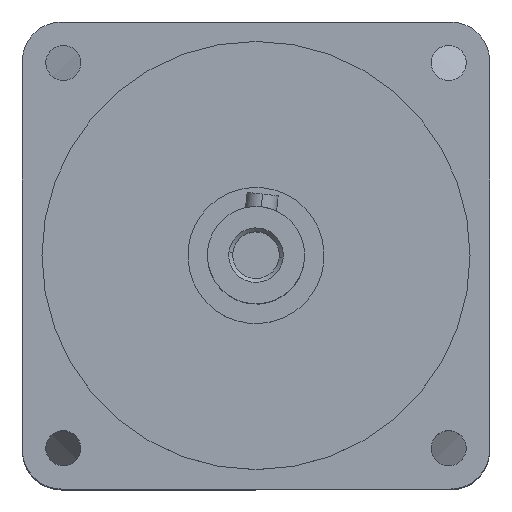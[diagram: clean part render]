
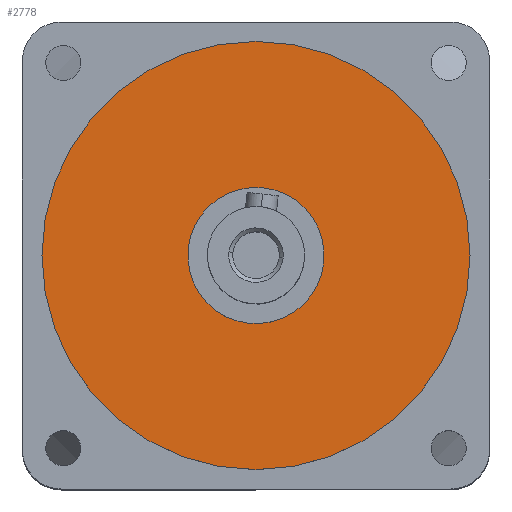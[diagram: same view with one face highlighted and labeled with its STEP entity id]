
A CAD part, top view. The second image highlights one B-rep face of the part: STEP entity #2778.
In plain terms, the highlighted planar face has unit normal (0, 0, 1).
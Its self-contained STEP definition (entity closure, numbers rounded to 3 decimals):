
#89 = ORIENTED_EDGE ( 'NONE', *, *, #687, .F. ) ;
#186 = CARTESIAN_POINT ( 'NONE',  ( -14.874, -22.151, 308.371 ) ) ;
#365 = VERTEX_POINT ( 'NONE', #1966 ) ;
#377 = DIRECTION ( 'NONE',  ( 0., 0., -1. ) ) ;
#382 = DIRECTION ( 'NONE',  ( 0., 0., -1. ) ) ;
#486 = ORIENTED_EDGE ( 'NONE', *, *, #1833, .F. ) ;
#687 = EDGE_CURVE ( 'NONE', #365, #868, #784, .T. ) ;
#752 = FACE_OUTER_BOUND ( 'NONE', #1371, .T. ) ;
#784 = CIRCLE ( 'NONE', #1746, 55. ) ;
#868 = VERTEX_POINT ( 'NONE', #186 ) ;
#948 = CARTESIAN_POINT ( 'NONE',  ( 40.126, -22.151, 308.371 ) ) ;
#1182 = DIRECTION ( 'NONE',  ( 1., 0., 0. ) ) ;
#1371 = EDGE_LOOP ( 'NONE', ( #486, #89 ) ) ;
#1746 = AXIS2_PLACEMENT_3D ( 'NONE', #1795, #377, #2040 ) ;
#1795 = CARTESIAN_POINT ( 'NONE',  ( 40.126, -22.151, 308.371 ) ) ;
#1804 = CARTESIAN_POINT ( 'NONE',  ( 40.126, -22.151, 308.371 ) ) ;
#1833 = EDGE_CURVE ( 'NONE', #868, #365, #2083, .T. ) ;
#1923 = AXIS2_PLACEMENT_3D ( 'NONE', #948, #2600, #1182 ) ;
#1966 = CARTESIAN_POINT ( 'NONE',  ( 95.126, -22.151, 308.371 ) ) ;
#2040 = DIRECTION ( 'NONE',  ( -1., 0., 0. ) ) ;
#2048 = DIRECTION ( 'NONE',  ( -1., 0., 0. ) ) ;
#2083 = CIRCLE ( 'NONE', #2913, 55. ) ;
#2357 = PLANE ( 'NONE',  #1923 ) ;
#2600 = DIRECTION ( 'NONE',  ( 0., 0., 1. ) ) ;
#2778 = ADVANCED_FACE ( 'NONE', ( #752 ), #2357, .T. ) ;
#2913 = AXIS2_PLACEMENT_3D ( 'NONE', #1804, #382, #2048 ) ;
